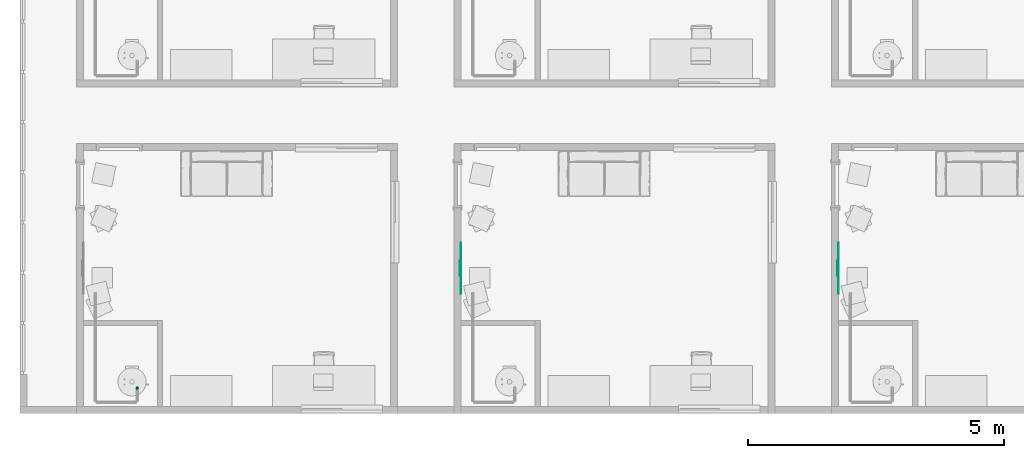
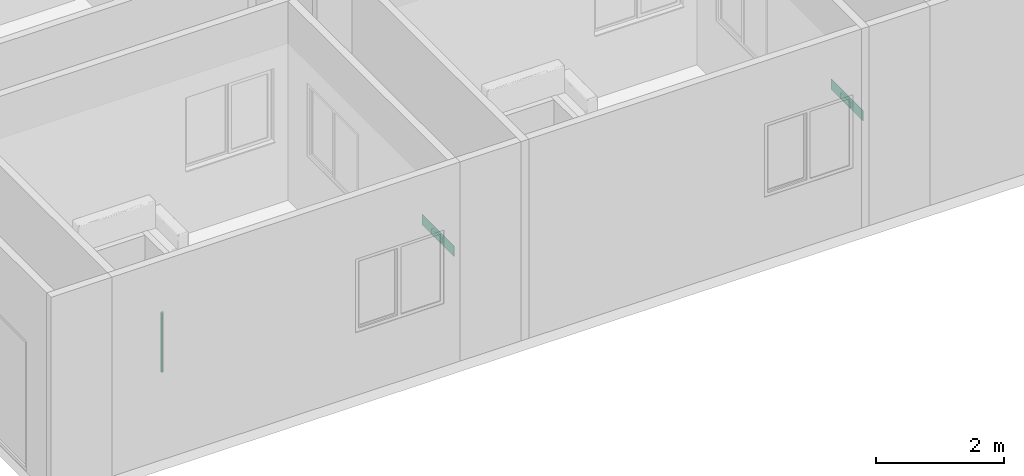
# One storey, part 15 of 71: 2 air terminals, 1 pipe segment.
"""IFC4 building model written with IfcOpenShell, lengths in centimetres."""

from ifc_helpers import new_model, entity, si_unit, converted_unit, derived_unit, direction, frame, origin, place, context, subcontext, project, spatial, arc, indexed_curve, outline, extrude, source, transform, mapped, material, constituent, constituent_set, type_object, type_shapes, element, save


model = new_model("IFC4")

# Units and contexts
model_context = context("Model", 3, precision=0.001, world=origin(), true_north=direction((6.123233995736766e-17, 1.0)))
body_context = subcontext(model_context, "Body", "Model", "MODEL_VIEW")
ifc_project = project(units=[si_unit("LENGTHUNIT", "METRE", prefix="CENTI"), si_unit("AREAUNIT", "SQUARE_METRE"), si_unit("VOLUMEUNIT", "CUBIC_METRE"), derived_unit("THERMALTRANSMITTANCEUNIT", [(si_unit("MASSUNIT", "GRAM", prefix="KILO"), 1), (si_unit("THERMODYNAMICTEMPERATUREUNIT", "KELVIN"), -1), (si_unit("TIMEUNIT", "SECOND"), -3)]), converted_unit("PLANEANGLEUNIT", "DEGREE", entity("IfcPlaneAngleMeasure", 0.017453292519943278), si_unit("PLANEANGLEUNIT", "RADIAN"), dimensions=[0, 0, 0, 0, 0, 0, 0]), derived_unit("MASSDENSITYUNIT", [(si_unit("MASSUNIT", "GRAM", prefix="KILO"), 1), (si_unit("LENGTHUNIT", "METRE"), -3)]), derived_unit("VAPORPERMEABILITYUNIT", [(si_unit("LENGTHUNIT", "METRE"), -1), (si_unit("TIMEUNIT", "SECOND"), 1)]), derived_unit("USERDEFINED", [(si_unit("MASSUNIT", "GRAM", prefix="KILO"), 1), (si_unit("TIMEUNIT", "SECOND"), -3), (si_unit("LENGTHUNIT", "METRE"), 3), (si_unit("ELECTRICCURRENTUNIT", "AMPERE"), -2)]), derived_unit("SPECIFICHEATCAPACITYUNIT", [(si_unit("THERMODYNAMICTEMPERATUREUNIT", "KELVIN"), -1), (si_unit("LENGTHUNIT", "METRE"), 2), (si_unit("TIMEUNIT", "SECOND"), -2)]), derived_unit("THERMALCONDUCTANCEUNIT", [(si_unit("MASSUNIT", "GRAM", prefix="KILO"), 1), (si_unit("THERMODYNAMICTEMPERATUREUNIT", "KELVIN"), -1), (si_unit("TIMEUNIT", "SECOND"), -3), (si_unit("LENGTHUNIT", "METRE"), 1)]), si_unit("PRESSUREUNIT", "PASCAL"), derived_unit("MODULUSOFELASTICITYUNIT", [(si_unit("MASSUNIT", "GRAM", prefix="KILO"), 1), (si_unit("LENGTHUNIT", "METRE"), -1), (si_unit("TIMEUNIT", "SECOND"), -2)]), derived_unit("THERMALEXPANSIONCOEFFICIENTUNIT", [(si_unit("THERMODYNAMICTEMPERATUREUNIT", "KELVIN"), -1)])], contexts=[model_context])

# Site, building, storey, space
site_placement = place(None, origin())
site = spatial("IfcSite", under=ifc_project, at=site_placement, Name="Default", CompositionType="ELEMENT")
building_placement = place(site_placement, origin())
building = spatial("IfcBuilding", under=site, at=building_placement, Name="IDS Escape Game Building", CompositionType="ELEMENT")
storey_placement = place(building_placement, frame((0.0, 0.0, 400.0)))
storey = spatial("IfcBuildingStorey", under=building, at=storey_placement, Name="01_First Floor", CompositionType="ELEMENT", Elevation=399.99999999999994)
space_1_placement = place(storey_placement, origin())
space_1 = spatial("IfcSpace", under=storey, at=space_1_placement, Name="37", CompositionType="ELEMENT", PredefinedType="NOTDEFINED")

# Air terminal
ifc_material_1 = material(Name="TB_LVC_referentievlak_00_gen_BERSnl", Category="BE Default")
ifc_constituent_1 = constituent(ifc_material_1, Name="TB_LVC_referentievlak_00_gen_BERSnl", Category="BE Default", fraction=0.00014157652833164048)
ifc_material_2 = material(Name="ARC_FME.h2_staal_00_gen_BERSnl", Category="h - metaal")
ifc_constituent_2 = constituent(ifc_material_2, Name="ARC_FME.h2_staal_00_gen_BERSnl", Category="h - metaal", fraction=0.9998584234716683)
ifc_constituent_set_1 = constituent_set(constituents=[ifc_constituent_1, ifc_constituent_2])
ifc_constituent_3 = constituent(ifc_material_1, Name="BE Referentievlak", Category="BE Default", fraction=0.00014157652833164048)
ifc_constituent_4 = constituent(ifc_material_2, Name="Terminals", Category="h - metaal", fraction=0.9998584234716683)
ifc_constituent_set_2 = constituent_set(constituents=[ifc_constituent_3, ifc_constituent_4])
air_terminal_type = type_object("IfcAirTerminalType", Name="TB_57_AIR_FB_aanzuigrooster - 1 rechthoekige aansluiting - calculated flow_gen_BERSnl:Air Terminal - Exhaust", PredefinedType="GRILLE", material=ifc_constituent_set_2)
shared_shape = source(origin(), body_context, "Body", "SweptSolid", [
    extrude(outline(indexed_curve([(-0.5, -2.0290176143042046e-15), (6.8507733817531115e-16, -0.5000000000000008), (0.5, 2.0290176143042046e-15), (-5.361679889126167e-16, 0.49999999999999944)], segments=[arc(1, 2, 3), arc(3, 4, 1)], self_intersect=False)), frame((0.0, 0.0, 0.0), z_axis=(1.7453292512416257e-05, 0.0, 1.0), x_axis=(0.0, 1.0, 0.0)), (0.0, 0.0, 1.0), 0.09999999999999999),
    extrude(outline(indexed_curve([(-14.900000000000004, -4.9), (14.900000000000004, -4.9), (14.900000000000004, 4.9), (-14.900000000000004, 4.9), (-14.900000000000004, -4.9)], self_intersect=False)), frame((-4.886921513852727e-05, 0.0, -2.7999999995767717)), (0.0, 0.0, 1.0), 2.7999999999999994),
    extrude(outline(indexed_curve([(-50.0, -10.0), (50.0, -10.0), (50.0, 10.0), (-50.0, 10.0), (-50.0, -10.0)], self_intersect=False)), frame((0.0, 0.0, 0.0), z_axis=(0.0, 0.0, 1.0), x_axis=(-1.0, 0.0, 0.0)), (0.0, 0.0, 1.0), 0.6999999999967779),
])
type_shapes(air_terminal_type, [shared_shape])
air_terminal_1_placement = place(space_1_placement, frame((745.0, 283.0, 24.0), z_axis=(1.0, 0.0, 0.0), x_axis=(0.0, 1.0, 0.0)))
element("IfcAirTerminal", 1, at=air_terminal_1_placement, inside=space_1, type_object=air_terminal_type, material=ifc_constituent_set_1, Name="TB_57_AIR_FB_aanzuigrooster - 1 rechthoekige aansluiting - calculated flow_gen_BERSnl:Air Terminal - Exhaust", ObjectType="TB_57_AIR_FB_aanzuigrooster - 1 rechthoekige aansluiting - calculated flow_gen_BERSnl:Air Terminal - Exhaust", PredefinedType="GRILLE", context=body_context, shape_type="MappedRepresentation", body=[
    mapped(shared_shape, transform((0.0, 0.0, 0.0), scale=1.0)),
])

# Space
space_2_placement = place(storey_placement, origin())
space_2 = spatial("IfcSpace", under=storey, at=space_2_placement, Name="38", CompositionType="ELEMENT", PredefinedType="NOTDEFINED")

# Air terminal
ifc_constituent_5 = constituent(ifc_material_1, Name="TB_LVC_referentievlak_00_gen_BERSnl", Category="BE Default", fraction=0.00014157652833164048)
ifc_constituent_6 = constituent(ifc_material_2, Name="ARC_FME.h2_staal_00_gen_BERSnl", Category="h - metaal", fraction=0.9998584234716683)
ifc_constituent_set_3 = constituent_set(constituents=[ifc_constituent_5, ifc_constituent_6])
air_terminal_2_placement = place(space_2_placement, frame((1483.0, 283.0, 24.0), z_axis=(1.0, 0.0, 0.0), x_axis=(0.0, 1.0, 0.0)))
element("IfcAirTerminal", 2, at=air_terminal_2_placement, inside=space_2, type_object=air_terminal_type, material=ifc_constituent_set_3, Name="TB_57_AIR_FB_aanzuigrooster - 1 rechthoekige aansluiting - calculated flow_gen_BERSnl:Air Terminal - Exhaust", ObjectType="TB_57_AIR_FB_aanzuigrooster - 1 rechthoekige aansluiting - calculated flow_gen_BERSnl:Air Terminal - Exhaust", PredefinedType="GRILLE", context=body_context, shape_type="MappedRepresentation", body=[
    mapped(shared_shape, transform((0.0, 0.0, 0.0), scale=1.0)),
])

# Pipe segment
pipe_segment_type = type_object("IfcPipeSegmentType", Name="Pipe Types:Piping Aluminum", PredefinedType="NOTDEFINED")
pipe_segment_placement = place(storey_placement, origin())
element("IfcPipeSegment", 3, at=pipe_segment_placement, inside=storey, type_object=pipe_segment_type, Name="Pipe Types:Piping Aluminum", ObjectType="Pipe Types:Piping Aluminum", PredefinedType="NOTDEFINED", context=body_context, shape_type="SweptSolid", body=[
    extrude(outline(indexed_curve([(2.412999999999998, 0.0), (1.7062486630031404, 1.7062486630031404), (-1.3535839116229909e-14, 2.412999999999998), (-1.7062486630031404, 1.7062486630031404), (-2.412999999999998, 6.767919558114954e-15), (-1.706248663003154, -1.7062486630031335), (-1.3535839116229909e-14, -2.412999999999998), (1.7062486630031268, -1.706248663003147)], segments=[arc(1, 2, 3), arc(3, 4, 5), arc(5, 6, 7), arc(7, 8, 1)], self_intersect=False)), frame((112.15000000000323, 48.90000000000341, 128.0), z_axis=(0.0, 0.0, 1.0), x_axis=(-1.0, 0.0, 0.0)), (0.0, 0.0, 1.0), 112.90000000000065),
])

save(model, "model.ifc")
